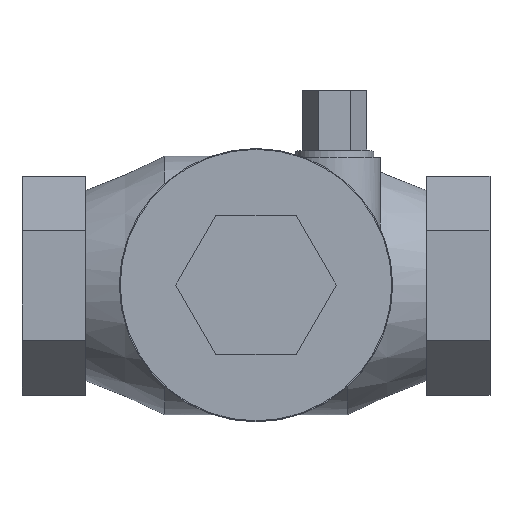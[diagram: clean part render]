
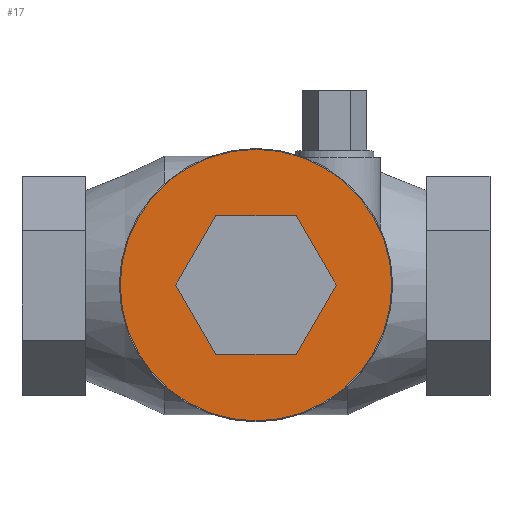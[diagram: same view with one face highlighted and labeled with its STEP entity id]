
A CAD part, top view. The second image highlights one B-rep face of the part: STEP entity #17.
In plain terms, the highlighted planar face has unit normal (0, 0, 1).
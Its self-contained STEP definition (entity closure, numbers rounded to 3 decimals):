
#17 = ADVANCED_FACE('',(#18,#58),#31,.T.);
#18 = FACE_BOUND('',#19,.T.);
#19 = EDGE_LOOP('',(#20));
#20 = ORIENTED_EDGE('',*,*,#21,.F.);
#21 = EDGE_CURVE('',#22,#22,#24,.T.);
#22 = VERTEX_POINT('',#23);
#23 = CARTESIAN_POINT('',(2.023,0.,1.438));
#24 = SURFACE_CURVE('',#25,(#30,#46),.PCURVE_S1.);
#25 = CIRCLE('',#26,0.743);
#26 = AXIS2_PLACEMENT_3D('',#27,#28,#29);
#27 = CARTESIAN_POINT('',(1.28,0.,1.438));
#28 = DIRECTION('',(0.,0.,-1.));
#29 = DIRECTION('',(1.,0.,0.));
#30 = PCURVE('',#31,#36);
#31 = PLANE('',#32);
#32 = AXIS2_PLACEMENT_3D('',#33,#34,#35);
#33 = CARTESIAN_POINT('',(1.28,0.,1.438));
#34 = DIRECTION('',(0.,0.,1.));
#35 = DIRECTION('',(1.,0.,-0.));
#36 = DEFINITIONAL_REPRESENTATION('',(#37),#45);
#37 = ( BOUNDED_CURVE() B_SPLINE_CURVE(2,(#38,#39,#40,#41,#42,#43,#44),
.UNSPECIFIED.,.T.,.F.) B_SPLINE_CURVE_WITH_KNOTS((1,2,2,2,2,1),(
    -2.094,0.,2.094,4.189,6.283,
8.378),.UNSPECIFIED.) CURVE() GEOMETRIC_REPRESENTATION_ITEM() 
RATIONAL_B_SPLINE_CURVE((1.,0.5,1.,0.5,1.,0.5,1.)) REPRESENTATION_ITEM(
  '') );
#38 = CARTESIAN_POINT('',(0.743,0.));
#39 = CARTESIAN_POINT('',(0.743,-1.286));
#40 = CARTESIAN_POINT('',(-0.371,-0.643));
#41 = CARTESIAN_POINT('',(-1.485,0.));
#42 = CARTESIAN_POINT('',(-0.371,0.643));
#43 = CARTESIAN_POINT('',(0.743,1.286));
#44 = CARTESIAN_POINT('',(0.743,0.));
#45 = ( GEOMETRIC_REPRESENTATION_CONTEXT(2) 
PARAMETRIC_REPRESENTATION_CONTEXT() REPRESENTATION_CONTEXT('2D SPACE',''
  ) );
#46 = PCURVE('',#47,#52);
#47 = CYLINDRICAL_SURFACE('',#48,0.743);
#48 = AXIS2_PLACEMENT_3D('',#49,#50,#51);
#49 = CARTESIAN_POINT('',(1.28,0.,1.298));
#50 = DIRECTION('',(0.,0.,1.));
#51 = DIRECTION('',(1.,0.,-0.));
#52 = DEFINITIONAL_REPRESENTATION('',(#53),#57);
#53 = LINE('',#54,#55);
#54 = CARTESIAN_POINT('',(6.283,0.14));
#55 = VECTOR('',#56,1.);
#56 = DIRECTION('',(-1.,0.));
#57 = ( GEOMETRIC_REPRESENTATION_CONTEXT(2) 
PARAMETRIC_REPRESENTATION_CONTEXT() REPRESENTATION_CONTEXT('2D SPACE',''
  ) );
#58 = FACE_BOUND('',#59,.T.);
#59 = EDGE_LOOP('',(#60,#90,#118,#146,#174,#202));
#60 = ORIENTED_EDGE('',*,*,#61,.F.);
#61 = EDGE_CURVE('',#62,#64,#66,.T.);
#62 = VERTEX_POINT('',#63);
#63 = CARTESIAN_POINT('',(1.061,-0.38,1.438));
#64 = VERTEX_POINT('',#65);
#65 = CARTESIAN_POINT('',(1.499,-0.38,1.438));
#66 = SURFACE_CURVE('',#67,(#71,#78),.PCURVE_S1.);
#67 = LINE('',#68,#69);
#68 = CARTESIAN_POINT('',(1.061,-0.38,1.438));
#69 = VECTOR('',#70,1.);
#70 = DIRECTION('',(1.,0.,0.));
#71 = PCURVE('',#31,#72);
#72 = DEFINITIONAL_REPRESENTATION('',(#73),#77);
#73 = LINE('',#74,#75);
#74 = CARTESIAN_POINT('',(-0.219,-0.38));
#75 = VECTOR('',#76,1.);
#76 = DIRECTION('',(1.,0.));
#77 = ( GEOMETRIC_REPRESENTATION_CONTEXT(2) 
PARAMETRIC_REPRESENTATION_CONTEXT() REPRESENTATION_CONTEXT('2D SPACE',''
  ) );
#78 = PCURVE('',#79,#84);
#79 = PLANE('',#80);
#80 = AXIS2_PLACEMENT_3D('',#81,#82,#83);
#81 = CARTESIAN_POINT('',(1.28,-0.38,1.438));
#82 = DIRECTION('',(0.,-1.,0.));
#83 = DIRECTION('',(1.,0.,0.));
#84 = DEFINITIONAL_REPRESENTATION('',(#85),#89);
#85 = LINE('',#86,#87);
#86 = CARTESIAN_POINT('',(-0.219,0.));
#87 = VECTOR('',#88,1.);
#88 = DIRECTION('',(1.,0.));
#89 = ( GEOMETRIC_REPRESENTATION_CONTEXT(2) 
PARAMETRIC_REPRESENTATION_CONTEXT() REPRESENTATION_CONTEXT('2D SPACE',''
  ) );
#90 = ORIENTED_EDGE('',*,*,#91,.F.);
#91 = EDGE_CURVE('',#92,#62,#94,.T.);
#92 = VERTEX_POINT('',#93);
#93 = CARTESIAN_POINT('',(0.841,0.,1.438));
#94 = SURFACE_CURVE('',#95,(#99,#106),.PCURVE_S1.);
#95 = LINE('',#96,#97);
#96 = CARTESIAN_POINT('',(0.841,0.,1.438));
#97 = VECTOR('',#98,1.);
#98 = DIRECTION('',(0.5,-0.866,0.));
#99 = PCURVE('',#31,#100);
#100 = DEFINITIONAL_REPRESENTATION('',(#101),#105);
#101 = LINE('',#102,#103);
#102 = CARTESIAN_POINT('',(-0.439,0.));
#103 = VECTOR('',#104,1.);
#104 = DIRECTION('',(0.5,-0.866));
#105 = ( GEOMETRIC_REPRESENTATION_CONTEXT(2) 
PARAMETRIC_REPRESENTATION_CONTEXT() REPRESENTATION_CONTEXT('2D SPACE',''
  ) );
#106 = PCURVE('',#107,#112);
#107 = PLANE('',#108);
#108 = AXIS2_PLACEMENT_3D('',#109,#110,#111);
#109 = CARTESIAN_POINT('',(0.951,-0.19,1.438));
#110 = DIRECTION('',(-0.866,-0.5,0.));
#111 = DIRECTION('',(0.5,-0.866,0.));
#112 = DEFINITIONAL_REPRESENTATION('',(#113),#117);
#113 = LINE('',#114,#115);
#114 = CARTESIAN_POINT('',(-0.219,0.));
#115 = VECTOR('',#116,1.);
#116 = DIRECTION('',(1.,0.));
#117 = ( GEOMETRIC_REPRESENTATION_CONTEXT(2) 
PARAMETRIC_REPRESENTATION_CONTEXT() REPRESENTATION_CONTEXT('2D SPACE',''
  ) );
#118 = ORIENTED_EDGE('',*,*,#119,.F.);
#119 = EDGE_CURVE('',#120,#92,#122,.T.);
#120 = VERTEX_POINT('',#121);
#121 = CARTESIAN_POINT('',(1.061,0.38,1.438));
#122 = SURFACE_CURVE('',#123,(#127,#134),.PCURVE_S1.);
#123 = LINE('',#124,#125);
#124 = CARTESIAN_POINT('',(1.061,0.38,1.438));
#125 = VECTOR('',#126,1.);
#126 = DIRECTION('',(-0.5,-0.866,0.));
#127 = PCURVE('',#31,#128);
#128 = DEFINITIONAL_REPRESENTATION('',(#129),#133);
#129 = LINE('',#130,#131);
#130 = CARTESIAN_POINT('',(-0.219,0.38));
#131 = VECTOR('',#132,1.);
#132 = DIRECTION('',(-0.5,-0.866));
#133 = ( GEOMETRIC_REPRESENTATION_CONTEXT(2) 
PARAMETRIC_REPRESENTATION_CONTEXT() REPRESENTATION_CONTEXT('2D SPACE',''
  ) );
#134 = PCURVE('',#135,#140);
#135 = PLANE('',#136);
#136 = AXIS2_PLACEMENT_3D('',#137,#138,#139);
#137 = CARTESIAN_POINT('',(0.951,0.19,1.438));
#138 = DIRECTION('',(-0.866,0.5,0.));
#139 = DIRECTION('',(-0.5,-0.866,0.));
#140 = DEFINITIONAL_REPRESENTATION('',(#141),#145);
#141 = LINE('',#142,#143);
#142 = CARTESIAN_POINT('',(-0.219,0.));
#143 = VECTOR('',#144,1.);
#144 = DIRECTION('',(1.,0.));
#145 = ( GEOMETRIC_REPRESENTATION_CONTEXT(2) 
PARAMETRIC_REPRESENTATION_CONTEXT() REPRESENTATION_CONTEXT('2D SPACE',''
  ) );
#146 = ORIENTED_EDGE('',*,*,#147,.F.);
#147 = EDGE_CURVE('',#148,#120,#150,.T.);
#148 = VERTEX_POINT('',#149);
#149 = CARTESIAN_POINT('',(1.499,0.38,1.438));
#150 = SURFACE_CURVE('',#151,(#155,#162),.PCURVE_S1.);
#151 = LINE('',#152,#153);
#152 = CARTESIAN_POINT('',(1.499,0.38,1.438));
#153 = VECTOR('',#154,1.);
#154 = DIRECTION('',(-1.,0.,0.));
#155 = PCURVE('',#31,#156);
#156 = DEFINITIONAL_REPRESENTATION('',(#157),#161);
#157 = LINE('',#158,#159);
#158 = CARTESIAN_POINT('',(0.219,0.38));
#159 = VECTOR('',#160,1.);
#160 = DIRECTION('',(-1.,0.));
#161 = ( GEOMETRIC_REPRESENTATION_CONTEXT(2) 
PARAMETRIC_REPRESENTATION_CONTEXT() REPRESENTATION_CONTEXT('2D SPACE',''
  ) );
#162 = PCURVE('',#163,#168);
#163 = PLANE('',#164);
#164 = AXIS2_PLACEMENT_3D('',#165,#166,#167);
#165 = CARTESIAN_POINT('',(1.28,0.38,1.438));
#166 = DIRECTION('',(0.,1.,0.));
#167 = DIRECTION('',(-1.,0.,0.));
#168 = DEFINITIONAL_REPRESENTATION('',(#169),#173);
#169 = LINE('',#170,#171);
#170 = CARTESIAN_POINT('',(-0.219,0.));
#171 = VECTOR('',#172,1.);
#172 = DIRECTION('',(1.,0.));
#173 = ( GEOMETRIC_REPRESENTATION_CONTEXT(2) 
PARAMETRIC_REPRESENTATION_CONTEXT() REPRESENTATION_CONTEXT('2D SPACE',''
  ) );
#174 = ORIENTED_EDGE('',*,*,#175,.F.);
#175 = EDGE_CURVE('',#176,#148,#178,.T.);
#176 = VERTEX_POINT('',#177);
#177 = CARTESIAN_POINT('',(1.719,0.,1.438));
#178 = SURFACE_CURVE('',#179,(#183,#190),.PCURVE_S1.);
#179 = LINE('',#180,#181);
#180 = CARTESIAN_POINT('',(1.719,0.,1.438));
#181 = VECTOR('',#182,1.);
#182 = DIRECTION('',(-0.5,0.866,0.));
#183 = PCURVE('',#31,#184);
#184 = DEFINITIONAL_REPRESENTATION('',(#185),#189);
#185 = LINE('',#186,#187);
#186 = CARTESIAN_POINT('',(0.439,0.));
#187 = VECTOR('',#188,1.);
#188 = DIRECTION('',(-0.5,0.866));
#189 = ( GEOMETRIC_REPRESENTATION_CONTEXT(2) 
PARAMETRIC_REPRESENTATION_CONTEXT() REPRESENTATION_CONTEXT('2D SPACE',''
  ) );
#190 = PCURVE('',#191,#196);
#191 = PLANE('',#192);
#192 = AXIS2_PLACEMENT_3D('',#193,#194,#195);
#193 = CARTESIAN_POINT('',(1.609,0.19,1.438));
#194 = DIRECTION('',(0.866,0.5,0.));
#195 = DIRECTION('',(-0.5,0.866,0.));
#196 = DEFINITIONAL_REPRESENTATION('',(#197),#201);
#197 = LINE('',#198,#199);
#198 = CARTESIAN_POINT('',(-0.219,0.));
#199 = VECTOR('',#200,1.);
#200 = DIRECTION('',(1.,0.));
#201 = ( GEOMETRIC_REPRESENTATION_CONTEXT(2) 
PARAMETRIC_REPRESENTATION_CONTEXT() REPRESENTATION_CONTEXT('2D SPACE',''
  ) );
#202 = ORIENTED_EDGE('',*,*,#203,.F.);
#203 = EDGE_CURVE('',#64,#176,#204,.T.);
#204 = SURFACE_CURVE('',#205,(#209,#216),.PCURVE_S1.);
#205 = LINE('',#206,#207);
#206 = CARTESIAN_POINT('',(1.499,-0.38,1.438));
#207 = VECTOR('',#208,1.);
#208 = DIRECTION('',(0.5,0.866,0.));
#209 = PCURVE('',#31,#210);
#210 = DEFINITIONAL_REPRESENTATION('',(#211),#215);
#211 = LINE('',#212,#213);
#212 = CARTESIAN_POINT('',(0.219,-0.38));
#213 = VECTOR('',#214,1.);
#214 = DIRECTION('',(0.5,0.866));
#215 = ( GEOMETRIC_REPRESENTATION_CONTEXT(2) 
PARAMETRIC_REPRESENTATION_CONTEXT() REPRESENTATION_CONTEXT('2D SPACE',''
  ) );
#216 = PCURVE('',#217,#222);
#217 = PLANE('',#218);
#218 = AXIS2_PLACEMENT_3D('',#219,#220,#221);
#219 = CARTESIAN_POINT('',(1.609,-0.19,1.438));
#220 = DIRECTION('',(0.866,-0.5,0.));
#221 = DIRECTION('',(0.5,0.866,0.));
#222 = DEFINITIONAL_REPRESENTATION('',(#223),#227);
#223 = LINE('',#224,#225);
#224 = CARTESIAN_POINT('',(-0.219,0.));
#225 = VECTOR('',#226,1.);
#226 = DIRECTION('',(1.,0.));
#227 = ( GEOMETRIC_REPRESENTATION_CONTEXT(2) 
PARAMETRIC_REPRESENTATION_CONTEXT() REPRESENTATION_CONTEXT('2D SPACE',''
  ) );
